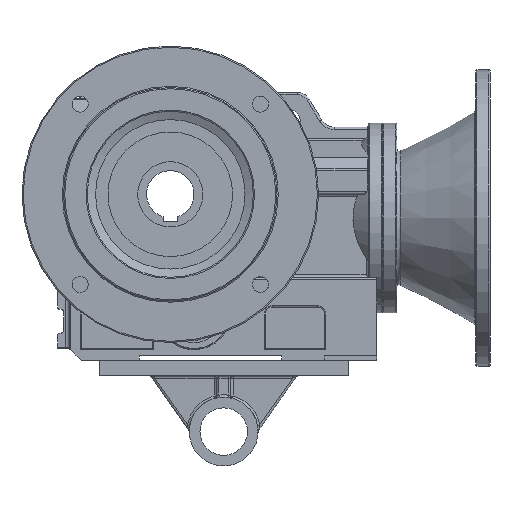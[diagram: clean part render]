
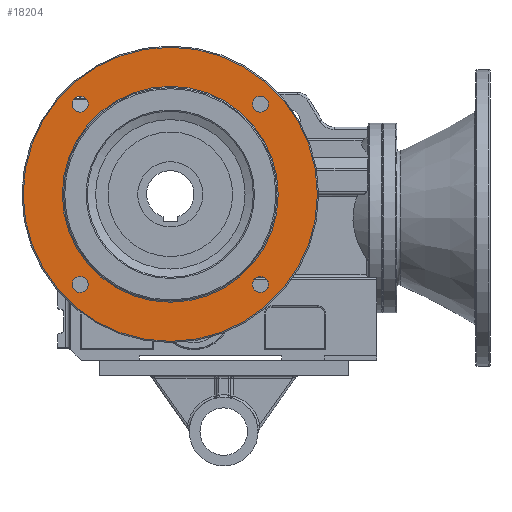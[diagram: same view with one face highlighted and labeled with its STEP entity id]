
A CAD part, front view. The second image highlights one B-rep face of the part: STEP entity #18204.
In plain terms, the highlighted planar face has unit normal (0, -1, 0).
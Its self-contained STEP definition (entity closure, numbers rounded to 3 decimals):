
#17769=CARTESIAN_POINT('',(-69.264,-26.5,76.014));
#17770=VERTEX_POINT('',#17769);
#17771=CARTESIAN_POINT('',(-76.014,-26.5,76.014));
#17772=DIRECTION('',(0.0,1.0,0.0));
#17773=DIRECTION('',(1.0,0.0,0.0));
#17774=AXIS2_PLACEMENT_3D('',#17771,#17772,#17773);
#17775=CIRCLE('',#17774,6.75);
#17776=EDGE_CURVE('',#17770,#17770,#17775,.T.);
#17837=CARTESIAN_POINT('',(-69.264,-26.5,-76.014));
#17838=VERTEX_POINT('',#17837);
#17839=CARTESIAN_POINT('',(-76.014,-26.5,-76.014));
#17840=DIRECTION('',(0.0,1.0,0.0));
#17841=DIRECTION('',(1.0,0.0,0.0));
#17842=AXIS2_PLACEMENT_3D('',#17839,#17840,#17841);
#17843=CIRCLE('',#17842,6.75);
#17844=EDGE_CURVE('',#17838,#17838,#17843,.T.);
#17905=CARTESIAN_POINT('',(82.764,-26.5,-76.014));
#17906=VERTEX_POINT('',#17905);
#17907=CARTESIAN_POINT('',(76.014,-26.5,-76.014));
#17908=DIRECTION('',(0.0,1.0,0.0));
#17909=DIRECTION('',(1.0,0.0,0.0));
#17910=AXIS2_PLACEMENT_3D('',#17907,#17908,#17909);
#17911=CIRCLE('',#17910,6.75);
#17912=EDGE_CURVE('',#17906,#17906,#17911,.T.);
#17973=CARTESIAN_POINT('',(82.764,-26.5,76.014));
#17974=VERTEX_POINT('',#17973);
#17975=CARTESIAN_POINT('',(76.014,-26.5,76.014));
#17976=DIRECTION('',(0.0,1.0,0.0));
#17977=DIRECTION('',(1.0,0.0,0.0));
#17978=AXIS2_PLACEMENT_3D('',#17975,#17976,#17977);
#17979=CIRCLE('',#17978,6.75);
#17980=EDGE_CURVE('',#17974,#17974,#17979,.T.);
#18158=CARTESIAN_POINT('',(-124.0,-26.5,0.0));
#18159=VERTEX_POINT('',#18158);
#18160=CARTESIAN_POINT('',(0.0,-26.5,0.0));
#18161=DIRECTION('',(0.0,1.0,0.0));
#18162=DIRECTION('',(1.0,0.0,0.0));
#18163=AXIS2_PLACEMENT_3D('',#18160,#18161,#18162);
#18164=CIRCLE('',#18163,124.0);
#18165=EDGE_CURVE('',#18159,#18159,#18164,.T.);
#18173=CARTESIAN_POINT('',(-107.5,-26.5,0.));
#18174=DIRECTION('',(0.0,-1.0,0.0));
#18175=DIRECTION('',(0.0,0.0,-1.0));
#18176=AXIS2_PLACEMENT_3D('',#18173,#18174,#18175);
#18177=PLANE('',#18176);
#18178=ORIENTED_EDGE('',*,*,#18165,.F.);
#18179=EDGE_LOOP('',(#18178));
#18180=FACE_OUTER_BOUND('',#18179,.T.);
#18181=ORIENTED_EDGE('',*,*,#17776,.T.);
#18182=EDGE_LOOP('',(#18181));
#18183=FACE_BOUND('',#18182,.T.);
#18184=ORIENTED_EDGE('',*,*,#17844,.T.);
#18185=EDGE_LOOP('',(#18184));
#18186=FACE_BOUND('',#18185,.T.);
#18187=ORIENTED_EDGE('',*,*,#17912,.T.);
#18188=EDGE_LOOP('',(#18187));
#18189=FACE_BOUND('',#18188,.T.);
#18190=ORIENTED_EDGE('',*,*,#17980,.T.);
#18191=EDGE_LOOP('',(#18190));
#18192=FACE_BOUND('',#18191,.T.);
#18193=CARTESIAN_POINT('',(-91.0,-26.5,0.));
#18194=VERTEX_POINT('',#18193);
#18195=CARTESIAN_POINT('',(0.0,-26.5,0.0));
#18196=DIRECTION('',(0.0,-1.0,0.0));
#18197=DIRECTION('',(1.0,0.0,0.0));
#18198=AXIS2_PLACEMENT_3D('',#18195,#18196,#18197);
#18199=CIRCLE('',#18198,91.0);
#18200=EDGE_CURVE('',#18194,#18194,#18199,.T.);
#18201=ORIENTED_EDGE('',*,*,#18200,.F.);
#18202=EDGE_LOOP('',(#18201));
#18203=FACE_BOUND('',#18202,.T.);
#18204=ADVANCED_FACE('',(#18180,#18183,#18186,#18189,#18192,#18203),#18177,.T.);
